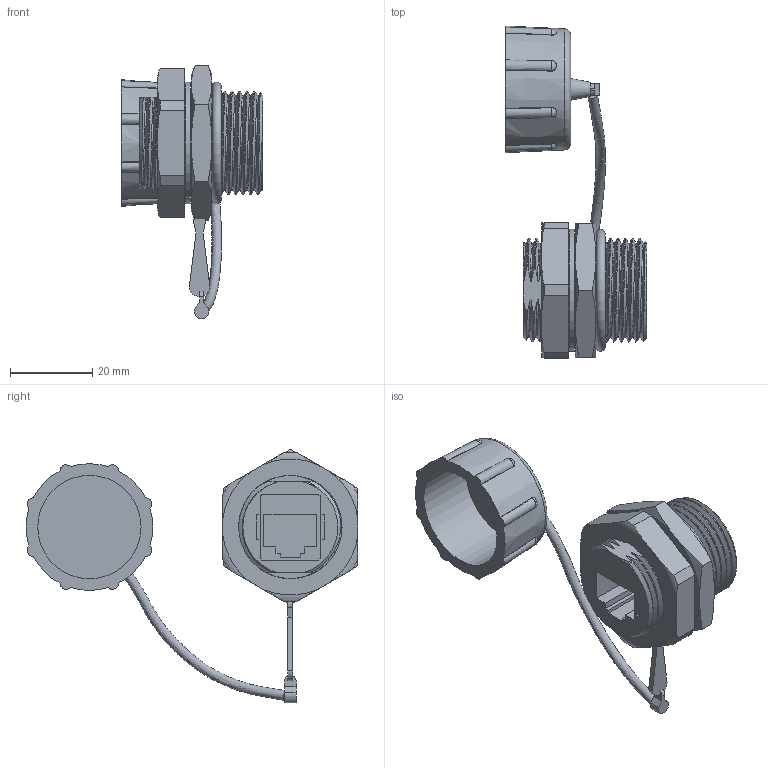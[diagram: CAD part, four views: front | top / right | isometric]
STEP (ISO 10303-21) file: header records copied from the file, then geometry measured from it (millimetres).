
FILE_DESCRIPTION(/* description */ (''),/* implementation_level */ '2;1');
FILE_NAME(/* name */ 'SY-WP8DS-C6A.stp',/* time_stamp */ '2026-04-08T17:00:16+09:00',/* author */ ('CS-05'),/* organization */ (''),/* preprocessor_version */ 'ST-DEVELOPER v19.2',/* originating_system */ 'Autodesk Inventor 2023',/* authorisation */ '');
FILE_SCHEMA (('AUTOMOTIVE_DESIGN { 1 0 10303 214 3 1 1 }'));
Length unit declared in the file: millimetre
Products named in the file (10): TB-023_SY-WP8DS-C6A_SD; TB-023_SY-WP8DS-C6A_SD1; TB-023_SY-WP8DS-C6A_SD2; TB-023_SY-WP8DS-C6A_SD3; TB-023_SY-WP8DS-C6A_SD4; TB-023_SY-WP8DS-C6A_SD5; TB-023_SY-WP8DS-C6A_SD6; TB-023_SY-WP8DS-C6A_SD7; TB-023_SY-WP8DS-C6A_SD8; TB-023_SY-WP8DS-C6A_SD9
Assembly tree (9 placements, depth 2):
  TB-023_SY-WP8DS-C6A_SD
    TB-023_SY-WP8DS-C6A_SD1
    TB-023_SY-WP8DS-C6A_SD2
    TB-023_SY-WP8DS-C6A_SD3
    TB-023_SY-WP8DS-C6A_SD4
    TB-023_SY-WP8DS-C6A_SD5
    TB-023_SY-WP8DS-C6A_SD6
    TB-023_SY-WP8DS-C6A_SD7
    TB-023_SY-WP8DS-C6A_SD8
    TB-023_SY-WP8DS-C6A_SD9
Bounding box: 34.61 x 80.93 x 61.75 mm (x, y, z)
Volume: 21779.5 mm3; surface area: 14579.8 mm2
Topology: 9 solids, 9 shells, 262 faces, 688 edges, 453 vertices
Faces by surface type: plane 138, bspline 75, cylinder 36, torus 8, cone 5
Full cylindrical faces by diameter (mm): 25.125 x1, 25.2 x2, 25.225 x7, 29.709 x1
Entity records: 14687 total; most frequent: CARTESIAN_POINT 8475, ORIENTED_EDGE 1376, DIRECTION 927, EDGE_CURVE 688, VERTEX_POINT 453, LINE 341, VECTOR 341, AXIS2_PLACEMENT_3D 293
